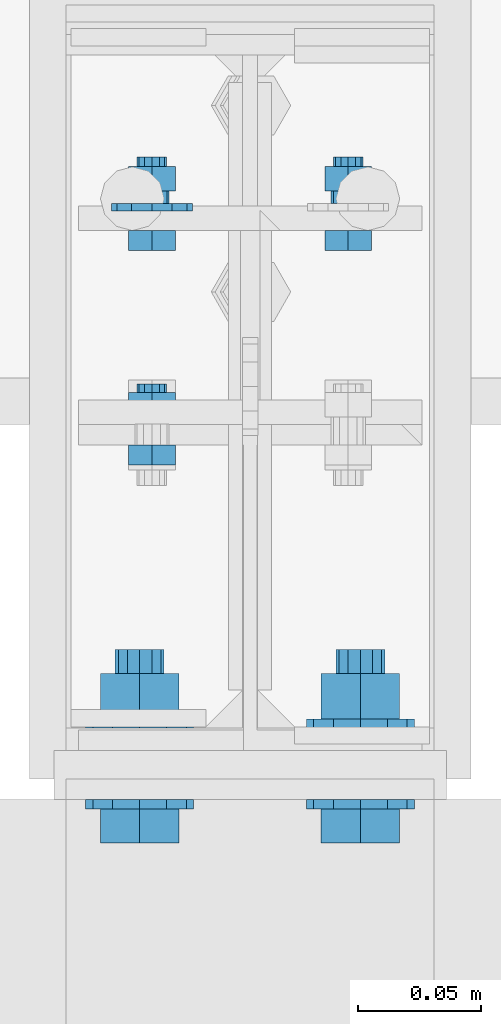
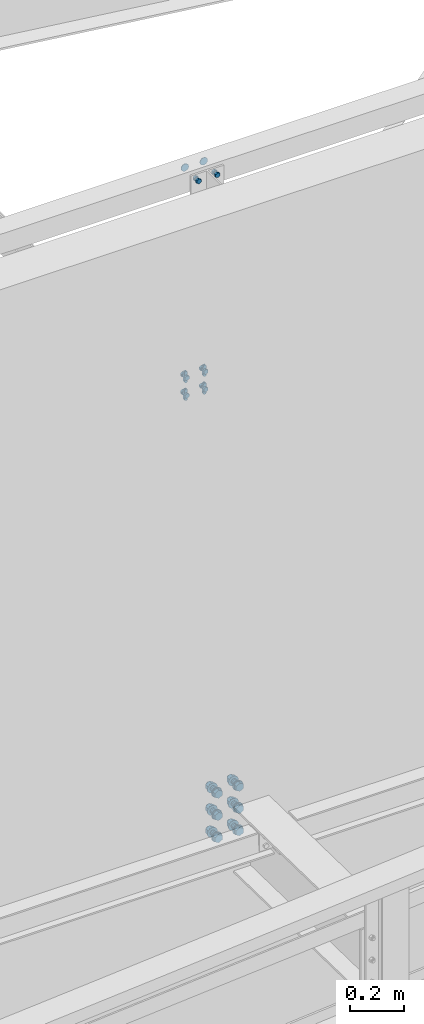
# One storey, part 106 of 3134: 4 mechanical fasteners, 3 elements without a shape of their own.
"""IFC2X3 building model written with IfcOpenShell, lengths in millimetres."""

from ifc_helpers import new_model, si_unit, frame, origin_with_axes, place, context, subcontext, project, spatial, faceted_brep, source, transform, mapped, material, type_object, element, aggregate, save


model = new_model("IFC2X3")

# Units and contexts
model_context = context("Model", 3, precision=1e-05, world=origin_with_axes())
body_context = subcontext(model_context, "Body", "Model", "MODEL_VIEW")
ifc_project = project(units=[si_unit("LENGTHUNIT", "METRE", prefix="MILLI"), si_unit("AREAUNIT", "SQUARE_METRE"), si_unit("VOLUMEUNIT", "CUBIC_METRE"), si_unit("MASSUNIT", "GRAM", prefix="KILO"), si_unit("TIMEUNIT", "SECOND"), si_unit("PLANEANGLEUNIT", "RADIAN"), si_unit("SOLIDANGLEUNIT", "STERADIAN"), si_unit("THERMODYNAMICTEMPERATUREUNIT", "DEGREE_CELSIUS"), si_unit("LUMINOUSINTENSITYUNIT", "LUMEN")], contexts=[model_context])

# Site, building, storey
site_placement = place(None, origin_with_axes())
site = spatial("IfcSite", under=ifc_project, at=site_placement, CompositionType="ELEMENT")
building_placement = place(site_placement, origin_with_axes())
building = spatial("IfcBuilding", under=site, at=building_placement, Name="Undefined", CompositionType="ELEMENT")
storey_placement = place(building_placement, origin_with_axes())
storey = spatial("IfcBuildingStorey", under=building, at=storey_placement, Name="Undefined", CompositionType="ELEMENT", Elevation=0.0)

# Assembly, mechanical fastener
assembly_1_placement = place(storey_placement, origin_with_axes())
assembly_1 = element("IfcElementAssembly", 1, at=assembly_1_placement, inside=storey, AssemblyPlace="NOTDEFINED", PredefinedType="RIGID_FRAME")
ifc_material_1 = material(Name="8.8")
mechanical_fastener_type = type_object("IfcMechanicalFastenerType", Name="Bolt assembly")
shared_shape_1 = source(origin_with_axes(), body_context, "Body", "Brep", [
    faceted_brep([(16.5, -3.0, 0.0), (14.289419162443, -3.0, 8.25000000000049), (8.24999999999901, -3.0, 14.2894191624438), (-1.70995436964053e-12, -3.0, 16.5), (-8.25000000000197, -3.0, 14.2894191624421), (-14.2894191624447, -3.0, 8.24999999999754), (-16.5, -3.0, -3.41990873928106e-12), (-14.2894191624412, -3.0, -8.25000000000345), (-8.24999999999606, -3.0, -14.2894191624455), (5.11154442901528e-12, -3.0, -16.5), (8.25000000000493, -3.0, -14.2894191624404), (14.2894191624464, -3.0, -8.24999999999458), (14.2894191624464, 0.1, -8.24999999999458), (8.25000000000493, 0.1, -14.2894191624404), (5.11154442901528e-12, 0.1, -16.5), (-8.24999999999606, 0.1, -14.2894191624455), (-14.2894191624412, 0.1, -8.25000000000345), (-16.5, 0.1, -3.41990873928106e-12), (-14.2894191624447, 0.1, 8.24999999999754), (-8.25000000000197, 0.1, 14.2894191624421), (-1.70995436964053e-12, 0.1, 16.5), (8.24999999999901, 0.1, 14.2894191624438), (14.289419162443, 0.1, 8.25000000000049), (16.5, 0.1, 0.0)], [[[0, 1, 2, 3, 4, 5, 6, 7, 8, 9, 10, 11]], [[12, 13, 14, 15, 16, 17, 18, 19, 20, 21, 22, 23]], [[0, 23, 22, 1]], [[1, 22, 21, 2]], [[2, 21, 20, 3]], [[3, 20, 19, 4]], [[4, 19, 18, 5]], [[5, 18, 17, 6]], [[6, 17, 16, 7]], [[7, 16, 15, 8]], [[8, 15, 14, 9]], [[9, 14, 13, 10]], [[10, 13, 12, 11]], [[11, 12, 23, 0]]]),
])
mechanical_fastener_1_placement = place(assembly_1_placement, frame((38362.5, -2.0, 5934.99639945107), z_axis=(-1.0, 0.0, 0.0), x_axis=(0.0, 0.0, 1.0)))
mechanical_fastener_1 = element("IfcMechanicalFastener", 2, at=mechanical_fastener_1_placement, type_object=mechanical_fastener_type, material=ifc_material_1, Name="Bolt assembly", NominalDiameter=30.0, NominalLength=3.0, context=body_context, shape_type="MappedRepresentation", body=[
    mapped(shared_shape_1, transform((0.0, 0.0, -40.0))),
    mapped(shared_shape_1, transform((0.0, 0.0, 40.0))),
])

assembly_2_placement = place(storey_placement, origin_with_axes())
assembly_2 = element("IfcElementAssembly", 3, at=assembly_2_placement, inside=storey, Name="300", AssemblyPlace="NOTDEFINED", PredefinedType="RIGID_FRAME")
ifc_material_2 = material(Name="HR10.9")
shared_shape_2 = source(origin_with_axes(), body_context, "Body", "Brep", [
    faceted_brep([(18.475208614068, -17.599999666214, 0.0), (9.23760430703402, -17.599999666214, 16.0), (-9.23760430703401, -17.599999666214, 16.0), (-18.475208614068, -17.599999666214, 2.2625605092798e-15), (-9.23760430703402, -17.599999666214, -16.0), (9.237604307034, -17.599999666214, -16.0), (9.237604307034, -3.70000004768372, -16.0), (-9.23760430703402, -3.70000004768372, -16.0), (-18.475208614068, -3.70000004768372, 2.2625605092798e-15), (-9.23760430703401, -3.70000004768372, 16.0), (9.23760430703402, -3.70000004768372, 16.0), (18.475208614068, -3.70000004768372, 0.0), (10.0, -3.70000004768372, 0.0), (8.66025403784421, -3.70000004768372, 5.0000000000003), (4.9999999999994, -3.70000004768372, 8.66025403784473), (-1.03633598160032e-12, -3.70000004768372, 10.0), (-5.00000000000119, -3.70000004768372, 8.6602540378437), (-8.66025403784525, -3.70000004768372, 4.99999999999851), (-10.0, -3.70000004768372, -2.07267196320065e-12), (-8.66025403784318, -3.70000004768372, -5.00000000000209), (-4.99999999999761, -3.70000004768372, -8.66025403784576), (3.09790571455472e-12, -3.70000004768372, -10.0), (5.00000000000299, -3.70000004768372, -8.66025403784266), (8.66025403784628, -3.70000004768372, -4.99999999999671), (8.66025403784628, 61.2999999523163, -4.99999999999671), (5.00000000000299, 61.2999999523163, -8.66025403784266), (3.09790571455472e-12, 61.2999999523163, -10.0), (-4.99999999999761, 61.2999999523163, -8.66025403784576), (-8.66025403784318, 61.2999999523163, -5.00000000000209), (-10.0, 61.2999999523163, -2.07267196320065e-12), (-8.66025403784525, 61.2999999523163, 4.99999999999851), (-5.00000000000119, 61.2999999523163, 8.6602540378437), (-1.03633598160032e-12, 61.2999999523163, 10.0), (4.9999999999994, 61.2999999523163, 8.66025403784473), (8.66025403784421, 61.2999999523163, 5.0000000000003), (10.0, 61.2999999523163, 0.0), (22.0, -3.70000004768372, 0.0), (19.0525588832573, -3.70000004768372, 11.0000000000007), (10.9999999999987, -3.70000004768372, 19.0525588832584), (-2.27993915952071e-12, -3.70000004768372, 22.0), (-11.0000000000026, -3.70000004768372, 19.0525588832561), (-19.0525588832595, -3.70000004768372, 10.9999999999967), (-22.0, -3.70000004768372, -4.55987831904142e-12), (-19.052558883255, -3.70000004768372, -11.0000000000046), (-10.9999999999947, -3.70000004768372, -19.0525588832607), (6.81539257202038e-12, -3.70000004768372, -22.0), (11.0000000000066, -3.70000004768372, -19.0525588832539), (19.0525588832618, -3.70000004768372, -10.9999999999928), (19.0525588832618, 0.0, -10.9999999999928), (11.0000000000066, 0.0, -19.0525588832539), (6.81539257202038e-12, 0.0, -22.0), (-10.9999999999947, 0.0, -19.0525588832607), (-19.052558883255, 0.0, -11.0000000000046), (-22.0, 0.0, -4.55987831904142e-12), (-19.0525588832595, 0.0, 10.9999999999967), (-11.0000000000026, 0.0, 19.0525588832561), (-2.27993915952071e-12, 0.0, 22.0), (10.9999999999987, 0.0, 19.0525588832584), (19.0525588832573, 0.0, 11.0000000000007), (22.0, 0.0, 0.0), (22.0, 29.1999998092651, 0.0), (19.0525588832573, 29.1999998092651, 11.0000000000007), (10.9999999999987, 29.1999998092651, 19.0525588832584), (-2.27993915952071e-12, 29.1999998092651, 22.0), (-11.0000000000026, 29.1999998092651, 19.0525588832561), (-19.0525588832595, 29.1999998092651, 10.9999999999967), (-22.0, 29.1999998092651, -4.55987831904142e-12), (-19.052558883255, 29.1999998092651, -11.0000000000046), (-10.9999999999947, 29.1999998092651, -19.0525588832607), (6.81539257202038e-12, 29.1999998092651, -22.0), (11.0000000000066, 29.1999998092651, -19.0525588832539), (19.0525588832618, 29.1999998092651, -10.9999999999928), (19.0525588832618, 32.8999998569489, -10.9999999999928), (11.0000000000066, 32.8999998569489, -19.0525588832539), (6.81539257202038e-12, 32.8999998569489, -22.0), (-10.9999999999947, 32.8999998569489, -19.0525588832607), (-19.052558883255, 32.8999998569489, -11.0000000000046), (-22.0, 32.8999998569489, -4.55987831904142e-12), (-19.0525588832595, 32.8999998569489, 10.9999999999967), (-11.0000000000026, 32.8999998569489, 19.0525588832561), (-2.27993915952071e-12, 32.8999998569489, 22.0), (10.9999999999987, 32.8999998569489, 19.0525588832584), (19.0525588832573, 32.8999998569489, 11.0000000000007), (22.0, 32.8999998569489, 0.0), (18.475208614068, 32.8999998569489, 0.0), (9.23760430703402, 32.8999998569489, 16.0), (-9.23760430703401, 32.8999998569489, 16.0), (-18.475208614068, 32.8999998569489, 2.2625605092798e-15), (-9.23760430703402, 32.8999998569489, -16.0), (9.237604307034, 32.8999998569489, -16.0), (9.237604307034, 51.4499990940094, -16.0), (-9.23760430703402, 51.4499990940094, -16.0), (-18.475208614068, 51.4499990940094, 2.2625605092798e-15), (-9.23760430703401, 51.4499990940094, 16.0), (9.23760430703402, 51.4499990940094, 16.0), (18.475208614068, 51.4499990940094, 0.0)], [[[0, 1, 2, 3, 4, 5]], [[6, 7, 8, 9, 10, 11]], [[0, 11, 10, 1]], [[1, 10, 9, 2]], [[2, 9, 8, 3]], [[3, 8, 7, 4]], [[4, 7, 6, 5]], [[5, 6, 11, 0]], [[12, 13, 14, 15, 16, 17, 18, 19, 20, 21, 22, 23]], [[24, 25, 26, 27, 28, 29, 30, 31, 32, 33, 34, 35]], [[12, 35, 34, 13]], [[13, 34, 33, 14]], [[14, 33, 32, 15]], [[15, 32, 31, 16]], [[16, 31, 30, 17]], [[17, 30, 29, 18]], [[18, 29, 28, 19]], [[19, 28, 27, 20]], [[20, 27, 26, 21]], [[21, 26, 25, 22]], [[22, 25, 24, 23]], [[23, 24, 35, 12]], [[36, 37, 38, 39, 40, 41, 42, 43, 44, 45, 46, 47]], [[48, 49, 50, 51, 52, 53, 54, 55, 56, 57, 58, 59]], [[36, 59, 58, 37]], [[37, 58, 57, 38]], [[38, 57, 56, 39]], [[39, 56, 55, 40]], [[40, 55, 54, 41]], [[41, 54, 53, 42]], [[42, 53, 52, 43]], [[43, 52, 51, 44]], [[44, 51, 50, 45]], [[45, 50, 49, 46]], [[46, 49, 48, 47]], [[47, 48, 59, 36]], [[60, 61, 62, 63, 64, 65, 66, 67, 68, 69, 70, 71]], [[72, 73, 74, 75, 76, 77, 78, 79, 80, 81, 82, 83]], [[60, 83, 82, 61]], [[61, 82, 81, 62]], [[62, 81, 80, 63]], [[63, 80, 79, 64]], [[64, 79, 78, 65]], [[65, 78, 77, 66]], [[66, 77, 76, 67]], [[67, 76, 75, 68]], [[68, 75, 74, 69]], [[69, 74, 73, 70]], [[70, 73, 72, 71]], [[71, 72, 83, 60]], [[84, 85, 86, 87, 88, 89]], [[90, 91, 92, 93, 94, 95]], [[84, 95, 94, 85]], [[85, 94, 93, 86]], [[86, 93, 92, 87]], [[87, 92, 91, 88]], [[88, 91, 90, 89]], [[89, 90, 95, 84]]]),
    faceted_brep([(11.0, 19.9, 0.0), (9.52627944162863, 19.9, 5.50000000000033), (5.49999999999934, 19.9, 9.5262794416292), (-1.13996957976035e-12, 19.9, 11.0), (-5.50000000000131, 19.9, 9.52627944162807), (-9.52627944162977, 19.9, 5.49999999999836), (-11.0, 19.9, -2.27993915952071e-12), (-9.5262794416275, 19.9, -5.5000000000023), (-5.49999999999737, 19.9, -9.52627944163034), (3.40769628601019e-12, 19.9, -11.0), (5.50000000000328, 19.9, -9.52627944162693), (9.52627944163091, 19.9, -5.49999999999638), (9.52627944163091, 29.1999998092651, -5.49999999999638), (5.50000000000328, 29.1999998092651, -9.52627944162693), (3.40769628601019e-12, 29.1999998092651, -11.0), (-5.49999999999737, 29.1999998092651, -9.52627944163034), (-9.5262794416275, 29.1999998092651, -5.5000000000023), (-11.0, 29.1999998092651, -2.27993915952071e-12), (-9.52627944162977, 29.1999998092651, 5.49999999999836), (-5.50000000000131, 29.1999998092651, 9.52627944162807), (-1.13996957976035e-12, 29.1999998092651, 11.0), (5.49999999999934, 29.1999998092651, 9.5262794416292), (9.52627944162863, 29.1999998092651, 5.50000000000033), (11.0, 29.1999998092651, 0.0), (11.0, 0.0999999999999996, 0.0), (9.52627944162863, 0.0999999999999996, 5.50000000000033), (5.49999999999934, 0.0999999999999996, 9.5262794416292), (-1.13996957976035e-12, 0.0999999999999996, 11.0), (-5.50000000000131, 0.0999999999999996, 9.52627944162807), (-9.52627944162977, 0.0999999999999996, 5.49999999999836), (-11.0, 0.0999999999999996, -2.27993915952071e-12), (-9.5262794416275, 0.0999999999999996, -5.5000000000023), (-5.49999999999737, 0.0999999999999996, -9.52627944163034), (3.40769628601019e-12, 0.0999999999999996, -11.0), (5.50000000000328, 0.0999999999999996, -9.52627944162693), (9.52627944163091, 0.0999999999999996, -5.49999999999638), (9.52627944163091, 20.1, -5.49999999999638), (5.50000000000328, 20.1, -9.52627944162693), (3.40769628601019e-12, 20.1, -11.0), (-5.49999999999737, 20.1, -9.52627944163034), (-9.5262794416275, 20.1, -5.5000000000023), (-11.0, 20.1, -2.27993915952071e-12), (-9.52627944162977, 20.1, 5.49999999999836), (-5.50000000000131, 20.1, 9.52627944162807), (-1.13996957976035e-12, 20.1, 11.0), (5.49999999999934, 20.1, 9.5262794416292), (9.52627944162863, 20.1, 5.50000000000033), (11.0, 20.1, 0.0)], [[[0, 1, 2, 3, 4, 5, 6, 7, 8, 9, 10, 11]], [[12, 13, 14, 15, 16, 17, 18, 19, 20, 21, 22, 23]], [[0, 23, 22, 1]], [[1, 22, 21, 2]], [[2, 21, 20, 3]], [[3, 20, 19, 4]], [[4, 19, 18, 5]], [[5, 18, 17, 6]], [[6, 17, 16, 7]], [[7, 16, 15, 8]], [[8, 15, 14, 9]], [[9, 14, 13, 10]], [[10, 13, 12, 11]], [[11, 12, 23, 0]], [[24, 25, 26, 27, 28, 29, 30, 31, 32, 33, 34, 35]], [[36, 37, 38, 39, 40, 41, 42, 43, 44, 45, 46, 47]], [[24, 47, 46, 25]], [[25, 46, 45, 26]], [[26, 45, 44, 27]], [[27, 44, 43, 28]], [[28, 43, 42, 29]], [[29, 42, 41, 30]], [[30, 41, 40, 31]], [[31, 40, 39, 32]], [[32, 39, 38, 33]], [[33, 38, 37, 34]], [[34, 37, 36, 35]], [[35, 36, 47, 24]]]),
])
mechanical_fastener_2_placement = place(assembly_2_placement, frame((38362.5, -245.0, 3270.85230476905), z_axis=(1.0, 0.0, 0.0), x_axis=(0.0, 0.0, -1.0)))
mechanical_fastener_2 = element("IfcMechanicalFastener", 4, at=mechanical_fastener_2_placement, type_object=mechanical_fastener_type, material=ifc_material_2, Name="Bolt assembly", NominalDiameter=20.0, NominalLength=65.0, context=body_context, shape_type="MappedRepresentation", body=[
    mapped(shared_shape_2, transform((0.0, 0.0, -45.0))),
    mapped(shared_shape_2, transform((100.0, 0.0, -45.0))),
    mapped(shared_shape_2, transform((200.0, 0.0, -45.0))),
    mapped(shared_shape_2, transform((0.0, 0.0, 45.0))),
    mapped(shared_shape_2, transform((100.0, 0.0, 45.0))),
    mapped(shared_shape_2, transform((200.0, 0.0, 45.0))),
])
aggregate(assembly_2, [mechanical_fastener_2])

assembly_3_placement = place(storey_placement, origin_with_axes())
assembly_3 = element("IfcElementAssembly", 5, at=assembly_3_placement, inside=storey, Name="300", AssemblyPlace="NOTDEFINED", PredefinedType="RIGID_FRAME")
shared_shape_3 = source(origin_with_axes(), body_context, "Body", "Brep", [
    faceted_brep([(10.9696551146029, -21.0500000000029, 0.0), (5.48482755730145, -21.0500000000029, 9.5), (-5.48482755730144, -21.0500000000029, 9.5), (-10.9696551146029, -21.0500000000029, 1.34339530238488e-15), (-5.48482755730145, -21.0500000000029, -9.5), (5.48482755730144, -21.0500000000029, -9.50000000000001), (5.48482755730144, -13.0500000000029, -9.50000000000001), (-5.48482755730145, -13.0500000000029, -9.5), (-10.9696551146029, -13.0500000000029, 1.34339530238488e-15), (-5.48482755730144, -13.0500000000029, 9.5), (5.48482755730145, -13.0500000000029, 9.5), (10.9696551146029, -13.0500000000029, 0.0), (6.0, -13.0500000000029, 0.0), (5.19615242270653, -13.0500000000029, 3.00000000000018), (2.99999999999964, -13.0500000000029, 5.19615242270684), (-6.21801588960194e-13, -13.0500000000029, 6.0), (-3.00000000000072, -13.0500000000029, 5.19615242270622), (-5.19615242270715, -13.0500000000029, 2.9999999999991), (-6.0, -13.0500000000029, -1.24360317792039e-12), (-5.19615242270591, -13.0500000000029, -3.00000000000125), (-2.99999999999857, -13.0500000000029, -5.19615242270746), (1.85874342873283e-12, -13.0500000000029, -6.0), (3.00000000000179, -13.0500000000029, -5.1961524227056), (5.19615242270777, -13.0500000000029, -2.99999999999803), (5.19615242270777, 16.9499999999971, -2.99999999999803), (3.00000000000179, 16.9499999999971, -5.1961524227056), (1.85874342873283e-12, 16.9499999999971, -6.0), (-2.99999999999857, 16.9499999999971, -5.19615242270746), (-5.19615242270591, 16.9499999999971, -3.00000000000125), (-6.0, 16.9499999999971, -1.24360317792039e-12), (-5.19615242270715, 16.9499999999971, 2.9999999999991), (-3.00000000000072, 16.9499999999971, 5.19615242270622), (-6.21801588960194e-13, 16.9499999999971, 6.0), (2.99999999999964, 16.9499999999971, 5.19615242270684), (5.19615242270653, 16.9499999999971, 3.00000000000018), (6.0, 16.9499999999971, 0.0), (10.9696551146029, 3.04999995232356, 0.0), (5.48482755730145, 3.04999995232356, 9.5), (-5.48482755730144, 3.04999995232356, 9.5), (-10.9696551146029, 3.04999995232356, 1.34339530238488e-15), (-5.48482755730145, 3.04999995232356, -9.5), (5.48482755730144, 3.04999995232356, -9.50000000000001), (5.48482755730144, 13.0499999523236, -9.50000000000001), (-5.48482755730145, 13.0499999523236, -9.5), (-10.9696551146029, 13.0499999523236, 1.34339530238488e-15), (-5.48482755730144, 13.0499999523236, 9.5), (5.48482755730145, 13.0499999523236, 9.5), (10.9696551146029, 13.0499999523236, 0.0)], [[[0, 1, 2, 3, 4, 5]], [[6, 7, 8, 9, 10, 11]], [[0, 11, 10, 1]], [[1, 10, 9, 2]], [[2, 9, 8, 3]], [[3, 8, 7, 4]], [[4, 7, 6, 5]], [[5, 6, 11, 0]], [[12, 13, 14, 15, 16, 17, 18, 19, 20, 21, 22, 23]], [[24, 25, 26, 27, 28, 29, 30, 31, 32, 33, 34, 35]], [[12, 35, 34, 13]], [[13, 34, 33, 14]], [[14, 33, 32, 15]], [[15, 32, 31, 16]], [[16, 31, 30, 17]], [[17, 30, 29, 18]], [[18, 29, 28, 19]], [[19, 28, 27, 20]], [[20, 27, 26, 21]], [[21, 26, 25, 22]], [[22, 25, 24, 23]], [[23, 24, 35, 12]], [[36, 37, 38, 39, 40, 41]], [[42, 43, 44, 45, 46, 47]], [[36, 47, 46, 37]], [[37, 46, 45, 38]], [[38, 45, 44, 39]], [[39, 44, 43, 40]], [[40, 43, 42, 41]], [[41, 42, 47, 36]]]),
    faceted_brep([(26.0, -12.9500000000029, 0.0), (25.4671567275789, -12.9500000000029, 2.6787840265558), (23.9497474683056, -12.9500000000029, 4.94974746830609), (21.6787840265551, -12.9500000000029, 6.46715672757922), (-19.0000000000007, -12.9500000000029, 7.0), (-22.5000000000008, -12.9500000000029, 6.06217782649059), (-25.0621778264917, -12.9500000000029, 3.49999999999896), (-26.0, -12.9500000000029, -1.45087037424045e-12), (-25.0621778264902, -12.9500000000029, -3.50000000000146), (-22.4999999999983, -12.9500000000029, -6.06217782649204), (-18.9999999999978, -12.9500000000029, -7.0), (19.0000000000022, -12.9500000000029, -7.0), (22.5000000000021, -12.9500000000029, -6.06217782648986), (25.0621778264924, -12.9500000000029, -3.4999999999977), (26.0, -2.95000000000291, 0.0), (25.0621778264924, -2.95000000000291, -3.4999999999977), (22.5000000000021, -2.95000000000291, -6.06217782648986), (19.0000000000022, -2.95000000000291, -7.0), (-18.9999999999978, -2.95000000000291, -7.0), (-22.4999999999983, -2.95000000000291, -6.06217782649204), (-25.0621778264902, -2.95000000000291, -3.50000000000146), (-26.0, -2.95000000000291, -1.45087037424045e-12), (-25.0621778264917, -2.95000000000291, 3.49999999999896), (-22.5000000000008, -2.95000000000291, 6.06217782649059), (-19.0000000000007, -2.95000000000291, 7.0), (21.6787840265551, -2.95000000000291, 6.46715672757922), (23.9497474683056, -2.95000000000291, 4.94974746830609), (25.4671567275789, -2.95000000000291, 2.6787840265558), (7.0, -3.14999995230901, 0.0), (6.06217782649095, -3.14999995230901, 3.50000000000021), (3.49999999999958, -3.14999995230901, 6.06217782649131), (-7.25435187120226e-13, -3.14999995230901, 7.0), (-3.50000000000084, -3.14999995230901, 6.06217782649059), (-6.06217782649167, -3.14999995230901, 3.49999999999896), (-7.0, -3.14999995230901, -1.45087037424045e-12), (-6.06217782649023, -3.14999995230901, -3.50000000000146), (-3.49999999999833, -3.14999995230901, -6.06217782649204), (2.1685340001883e-12, -3.14999995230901, -7.0), (3.50000000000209, -3.14999995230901, -6.06217782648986), (6.0621778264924, -3.14999995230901, -3.4999999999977), (6.0621778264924, 3.04999995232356, -3.4999999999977), (3.50000000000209, 3.04999995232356, -6.06217782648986), (2.1685340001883e-12, 3.04999995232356, -7.0), (-3.49999999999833, 3.04999995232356, -6.06217782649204), (-6.06217782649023, 3.04999995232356, -3.50000000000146), (-7.0, 3.04999995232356, -1.45087037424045e-12), (-6.06217782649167, 3.04999995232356, 3.49999999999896), (-3.50000000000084, 3.04999995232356, 6.06217782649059), (-7.25435187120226e-13, 3.04999995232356, 7.0), (3.49999999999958, 3.04999995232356, 6.06217782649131), (6.06217782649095, 3.04999995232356, 3.50000000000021), (7.0, 3.04999995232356, 0.0)], [[[0, 1, 2, 3, 4, 5, 6, 7, 8, 9, 10, 11, 12, 13]], [[14, 15, 16, 17, 18, 19, 20, 21, 22, 23, 24, 25, 26, 27]], [[0, 14, 27, 1]], [[1, 27, 26, 2]], [[2, 26, 25, 3]], [[3, 25, 24, 4]], [[4, 24, 23, 5]], [[5, 23, 22, 6]], [[6, 22, 21, 7]], [[7, 21, 20, 8]], [[8, 20, 19, 9]], [[9, 19, 18, 10]], [[10, 18, 17, 11]], [[11, 17, 16, 12]], [[12, 16, 15, 13]], [[13, 15, 14, 0]], [[28, 29, 30, 31, 32, 33, 34, 35, 36, 37, 38, 39]], [[40, 41, 42, 43, 44, 45, 46, 47, 48, 49, 50, 51]], [[28, 51, 50, 29]], [[29, 50, 49, 30]], [[30, 49, 48, 31]], [[31, 48, 47, 32]], [[32, 47, 46, 33]], [[33, 46, 45, 34]], [[34, 45, 44, 35]], [[35, 44, 43, 36]], [[36, 43, 42, 37]], [[37, 42, 41, 38]], [[38, 41, 40, 39]], [[39, 40, 51, 28]]]),
])
mechanical_fastener_3_placement = place(assembly_3_placement, frame((38362.4999999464, 0.0, 4996.39642111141), z_axis=(1.0, 0.0, 0.0), x_axis=(0.0, 0.0, -1.0)))
mechanical_fastener_3 = element("IfcMechanicalFastener", 6, at=mechanical_fastener_3_placement, type_object=mechanical_fastener_type, material=ifc_material_1, Name="Bolt assembly", NominalDiameter=12.0, NominalLength=30.0, context=body_context, shape_type="MappedRepresentation", body=[
    mapped(shared_shape_3, transform((0.0, 0.0, -40.0))),
    mapped(shared_shape_3, transform((80.0, 0.0, -40.0))),
    mapped(shared_shape_3, transform((0.0, 0.0, 40.0))),
    mapped(shared_shape_3, transform((80.0, 0.0, 40.0))),
])
aggregate(assembly_3, [mechanical_fastener_3])

# Mechanical fastener
shared_shape_4 = source(origin_with_axes(), body_context, "Body", "Brep", [
    faceted_brep([(10.9696551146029, -16.5, 0.0), (5.48482755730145, -16.5, 9.5), (-5.48482755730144, -16.5, 9.5), (-10.9696551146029, -16.5, 1.34339530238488e-15), (-5.48482755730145, -16.5, -9.5), (5.48482755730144, -16.5, -9.50000000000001), (5.48482755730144, -8.5, -9.50000000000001), (-5.48482755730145, -8.5, -9.5), (-10.9696551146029, -8.5, 1.34339530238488e-15), (-5.48482755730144, -8.5, 9.5), (5.48482755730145, -8.5, 9.5), (10.9696551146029, -8.5, 0.0), (6.0, -8.5, 0.0), (5.19615242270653, -8.5, 3.00000000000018), (2.99999999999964, -8.5, 5.19615242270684), (-6.21801588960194e-13, -8.5, 6.0), (-3.00000000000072, -8.5, 5.19615242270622), (-5.19615242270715, -8.5, 2.9999999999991), (-6.0, -8.5, -1.24360317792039e-12), (-5.19615242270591, -8.5, -3.00000000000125), (-2.99999999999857, -8.5, -5.19615242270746), (1.85874342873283e-12, -8.5, -6.0), (3.00000000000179, -8.5, -5.1961524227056), (5.19615242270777, -8.5, -2.99999999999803), (5.19615242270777, 16.5, -2.99999999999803), (3.00000000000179, 16.5, -5.1961524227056), (1.85874342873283e-12, 16.5, -6.0), (-2.99999999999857, 16.5, -5.19615242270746), (-5.19615242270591, 16.5, -3.00000000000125), (-6.0, 16.5, -1.24360317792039e-12), (-5.19615242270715, 16.5, 2.9999999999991), (-3.00000000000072, 16.5, 5.19615242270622), (-6.21801588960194e-13, 16.5, 6.0), (2.99999999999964, 16.5, 5.19615242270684), (5.19615242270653, 16.5, 3.00000000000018), (6.0, 16.5, 0.0), (10.9696551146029, 3.00000000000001, 0.0), (5.48482755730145, 3.00000000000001, 9.5), (-5.48482755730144, 3.00000000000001, 9.5), (-10.9696551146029, 3.00000000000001, 1.34339530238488e-15), (-5.48482755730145, 3.00000000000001, -9.5), (5.48482755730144, 3.00000000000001, -9.50000000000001), (5.48482755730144, 13.0, -9.50000000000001), (-5.48482755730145, 13.0, -9.5), (-10.9696551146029, 13.0, 1.34339530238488e-15), (-5.48482755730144, 13.0, 9.5), (5.48482755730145, 13.0, 9.5), (10.9696551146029, 13.0, 0.0)], [[[0, 1, 2, 3, 4, 5]], [[6, 7, 8, 9, 10, 11]], [[0, 11, 10, 1]], [[1, 10, 9, 2]], [[2, 9, 8, 3]], [[3, 8, 7, 4]], [[4, 7, 6, 5]], [[5, 6, 11, 0]], [[12, 13, 14, 15, 16, 17, 18, 19, 20, 21, 22, 23]], [[24, 25, 26, 27, 28, 29, 30, 31, 32, 33, 34, 35]], [[12, 35, 34, 13]], [[13, 34, 33, 14]], [[14, 33, 32, 15]], [[15, 32, 31, 16]], [[16, 31, 30, 17]], [[17, 30, 29, 18]], [[18, 29, 28, 19]], [[19, 28, 27, 20]], [[20, 27, 26, 21]], [[21, 26, 25, 22]], [[22, 25, 24, 23]], [[23, 24, 35, 12]], [[36, 37, 38, 39, 40, 41]], [[42, 43, 44, 45, 46, 47]], [[36, 47, 46, 37]], [[37, 46, 45, 38]], [[38, 45, 44, 39]], [[39, 44, 43, 40]], [[40, 43, 42, 41]], [[41, 42, 47, 36]]]),
    faceted_brep([(7.0, -8.4, 0.0), (6.06217782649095, -8.4, 3.50000000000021), (3.49999999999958, -8.4, 6.06217782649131), (-7.25435187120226e-13, -8.4, 7.0), (-3.50000000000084, -8.4, 6.06217782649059), (-6.06217782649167, -8.4, 3.49999999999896), (-7.0, -8.4, -1.45087037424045e-12), (-6.06217782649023, -8.4, -3.50000000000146), (-3.49999999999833, -8.4, -6.06217782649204), (2.1685340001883e-12, -8.4, -7.0), (3.50000000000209, -8.4, -6.06217782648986), (6.0621778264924, -8.4, -3.4999999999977), (6.0621778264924, 0.0999999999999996, -3.4999999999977), (3.50000000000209, 0.0999999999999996, -6.06217782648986), (2.1685340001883e-12, 0.0999999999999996, -7.0), (-3.49999999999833, 0.0999999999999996, -6.06217782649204), (-6.06217782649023, 0.0999999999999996, -3.50000000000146), (-7.0, 0.0999999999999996, -1.45087037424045e-12), (-6.06217782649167, 0.0999999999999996, 3.49999999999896), (-3.50000000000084, 0.0999999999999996, 6.06217782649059), (-7.25435187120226e-13, 0.0999999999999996, 7.0), (3.49999999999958, 0.0999999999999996, 6.06217782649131), (6.06217782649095, 0.0999999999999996, 3.50000000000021), (7.0, 0.0999999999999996, 0.0), (7.0, -0.1, 0.0), (6.06217782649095, -0.1, 3.50000000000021), (3.49999999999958, -0.1, 6.06217782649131), (-7.25435187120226e-13, -0.1, 7.0), (-3.50000000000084, -0.1, 6.06217782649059), (-6.06217782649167, -0.1, 3.49999999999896), (-7.0, -0.1, -1.45087037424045e-12), (-6.06217782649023, -0.1, -3.50000000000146), (-3.49999999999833, -0.1, -6.06217782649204), (2.1685340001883e-12, -0.1, -7.0), (3.50000000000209, -0.1, -6.06217782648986), (6.0621778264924, -0.1, -3.4999999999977), (6.0621778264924, 3.0, -3.4999999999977), (3.50000000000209, 3.0, -6.06217782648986), (2.1685340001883e-12, 3.0, -7.0), (-3.49999999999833, 3.0, -6.06217782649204), (-6.06217782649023, 3.0, -3.50000000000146), (-7.0, 3.0, -1.45087037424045e-12), (-6.06217782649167, 3.0, 3.49999999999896), (-3.50000000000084, 3.0, 6.06217782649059), (-7.25435187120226e-13, 3.0, 7.0), (3.49999999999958, 3.0, 6.06217782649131), (6.06217782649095, 3.0, 3.50000000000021), (7.0, 3.0, 0.0)], [[[0, 1, 2, 3, 4, 5, 6, 7, 8, 9, 10, 11]], [[12, 13, 14, 15, 16, 17, 18, 19, 20, 21, 22, 23]], [[0, 23, 22, 1]], [[1, 22, 21, 2]], [[2, 21, 20, 3]], [[3, 20, 19, 4]], [[4, 19, 18, 5]], [[5, 18, 17, 6]], [[6, 17, 16, 7]], [[7, 16, 15, 8]], [[8, 15, 14, 9]], [[9, 14, 13, 10]], [[10, 13, 12, 11]], [[11, 12, 23, 0]], [[24, 25, 26, 27, 28, 29, 30, 31, 32, 33, 34, 35]], [[36, 37, 38, 39, 40, 41, 42, 43, 44, 45, 46, 47]], [[24, 47, 46, 25]], [[25, 46, 45, 26]], [[26, 45, 44, 27]], [[27, 44, 43, 28]], [[28, 43, 42, 29]], [[29, 42, 41, 30]], [[30, 41, 40, 31]], [[31, 40, 39, 32]], [[32, 39, 38, 33]], [[33, 38, 37, 34]], [[34, 37, 36, 35]], [[35, 36, 47, 24]]]),
])
mechanical_fastener_4_placement = place(assembly_1_placement, frame((38362.5, -92.0, 5934.99639945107), z_axis=(-1.0, 0.0, 0.0), x_axis=(0.0, 0.0, 1.0)))
mechanical_fastener_4 = element("IfcMechanicalFastener", 7, at=mechanical_fastener_4_placement, type_object=mechanical_fastener_type, material=ifc_material_1, Name="Bolt assembly", NominalDiameter=12.0, NominalLength=25.0, context=body_context, shape_type="MappedRepresentation", body=[
    mapped(shared_shape_4, transform((0.0, 0.0, -40.0))),
    mapped(shared_shape_4, transform((0.0, 0.0, 40.0))),
])

aggregate(assembly_1, [mechanical_fastener_4, mechanical_fastener_1])

save(model, "model.ifc")
